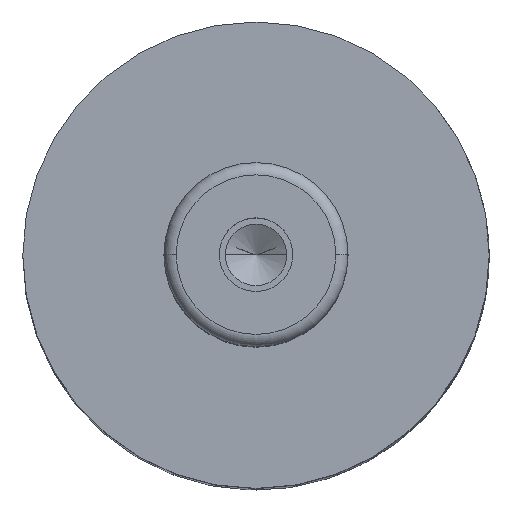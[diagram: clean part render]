
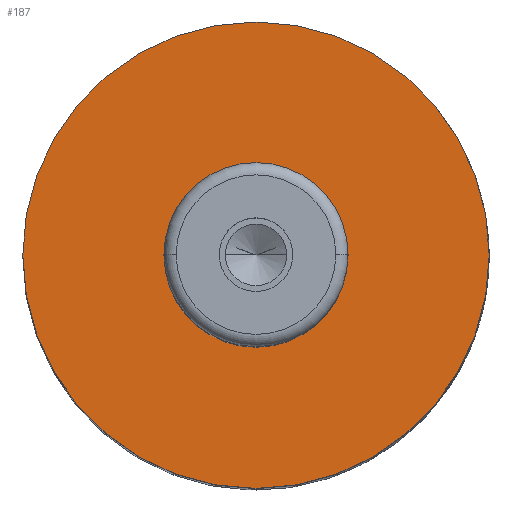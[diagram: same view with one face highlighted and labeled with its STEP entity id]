
A CAD part, top view. The second image highlights one B-rep face of the part: STEP entity #187.
In plain terms, the highlighted planar face has unit normal (0, 0, 1).
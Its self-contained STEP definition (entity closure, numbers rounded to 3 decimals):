
#109=PLANE('',#1002);
#132=FACE_BOUND('',#299,.T.);
#133=FACE_BOUND('',#300,.T.);
#187=ADVANCED_FACE('',(#132,#133),#109,.T.);
#299=EDGE_LOOP('',(#463,#464));
#300=EDGE_LOOP('',(#465,#466));
#367=CIRCLE('',#996,7.5);
#368=CIRCLE('',#998,7.5);
#369=CIRCLE('',#1000,19.);
#370=CIRCLE('',#1001,19.);
#463=ORIENTED_EDGE('',*,*,#766,.F.);
#464=ORIENTED_EDGE('',*,*,#767,.F.);
#465=ORIENTED_EDGE('',*,*,#765,.T.);
#466=ORIENTED_EDGE('',*,*,#763,.T.);
#676=VERTEX_POINT('',#1435);
#677=VERTEX_POINT('',#1437);
#678=VERTEX_POINT('',#1443);
#679=VERTEX_POINT('',#1444);
#763=EDGE_CURVE('',#677,#676,#367,.T.);
#765=EDGE_CURVE('',#676,#677,#368,.T.);
#766=EDGE_CURVE('',#678,#679,#369,.T.);
#767=EDGE_CURVE('',#679,#678,#370,.T.);
#996=AXIS2_PLACEMENT_3D('',#1436,#1150,#1151);
#998=AXIS2_PLACEMENT_3D('',#1440,#1155,#1156);
#1000=AXIS2_PLACEMENT_3D('',#1442,#1159,#1160);
#1001=AXIS2_PLACEMENT_3D('',#1445,#1161,#1162);
#1002=AXIS2_PLACEMENT_3D('',#1446,#1163,#1164);
#1150=DIRECTION('',(0.,0.,-1.));
#1151=DIRECTION('',(0.,1.,0.));
#1155=DIRECTION('',(0.,0.,-1.));
#1156=DIRECTION('',(0.,-1.,0.));
#1159=DIRECTION('',(0.,0.,-1.));
#1160=DIRECTION('',(0.,1.,0.));
#1161=DIRECTION('',(0.,0.,-1.));
#1162=DIRECTION('',(0.,-1.,0.));
#1163=DIRECTION('',(0.,0.,1.));
#1164=DIRECTION('',(0.,-1.,0.));
#1435=CARTESIAN_POINT('',(-7.5,0.,73.));
#1436=CARTESIAN_POINT('',(0.,0.,73.));
#1437=CARTESIAN_POINT('',(7.5,0.,73.));
#1440=CARTESIAN_POINT('',(0.,0.,73.));
#1442=CARTESIAN_POINT('',(0.,0.,73.));
#1443=CARTESIAN_POINT('',(19.,0.,73.));
#1444=CARTESIAN_POINT('',(-19.,0.,73.));
#1445=CARTESIAN_POINT('',(0.,0.,73.));
#1446=CARTESIAN_POINT('',(0.,0.,73.));
